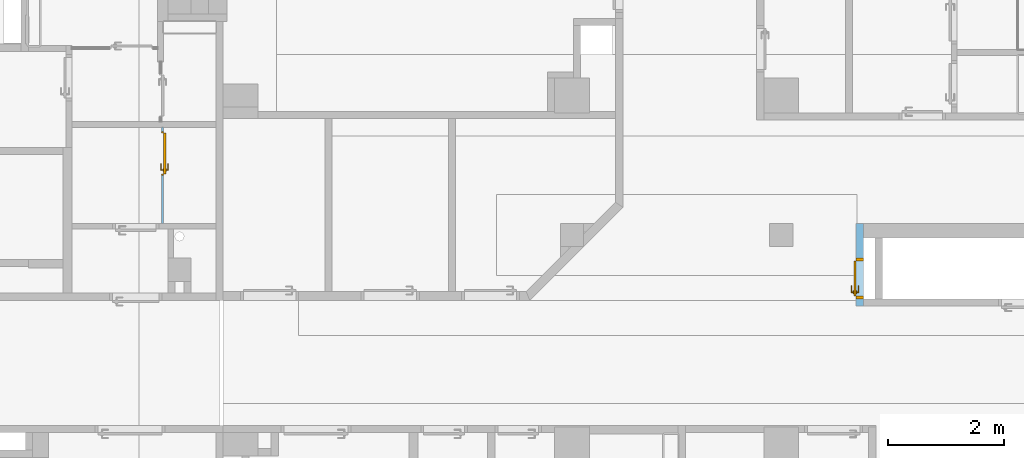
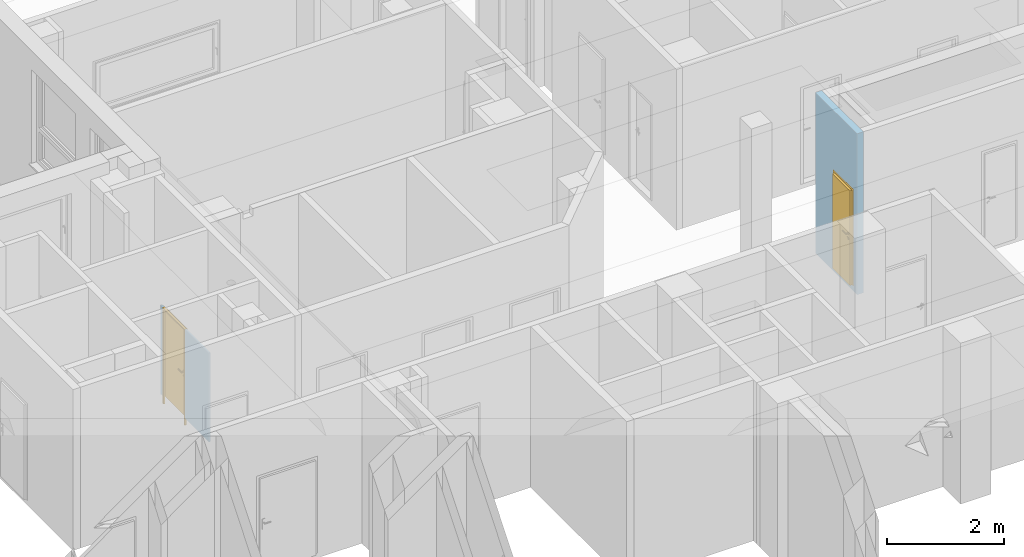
# One storey, part 81 of 140: 2 doors, 2 openings, plus 2 elements that do not belong to this part.
"""IFC4 building model written with IfcOpenShell, lengths in metres."""

from ifc_helpers import new_model, entity, si_unit, converted_unit, derived_unit, frame, frame_2d, origin, origin_with_axes, place, context, subcontext, project, spatial, polyline, rectangle, outline, extrude, closed_shell, open_shell, surface_model, source, transform, mapped, material, layer, layer_set, layer_usage, type_object, element, fill, save


model = new_model("IFC4")

# Units and contexts
model_context = context("Model", 3, precision=1e-05, world=origin())
body_context = subcontext(model_context, "Body", "Model", "MODEL_VIEW")
ifc_project = project(units=[si_unit("LENGTHUNIT", "METRE"), si_unit("AREAUNIT", "SQUARE_METRE"), si_unit("VOLUMEUNIT", "CUBIC_METRE"), si_unit("MASSUNIT", "GRAM", prefix="KILO"), converted_unit("PLANEANGLEUNIT", "DEGREE", entity("IfcPlaneAngleMeasure", 0.0174532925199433), si_unit("PLANEANGLEUNIT", "RADIAN"), dimensions=[0, 0, 0, 0, 0, 0, 0]), derived_unit("THERMALTRANSMITTANCEUNIT", [(si_unit("POWERUNIT", "WATT"), 1), (si_unit("THERMODYNAMICTEMPERATUREUNIT", "KELVIN"), -1), (si_unit("LENGTHUNIT", "METRE"), -2)]), derived_unit("VOLUMETRICFLOWRATEUNIT", [(si_unit("LENGTHUNIT", "METRE"), 3), (converted_unit("TIMEUNIT", "hour", entity("IfcTimeMeasure", 3600.0), si_unit("TIMEUNIT", "SECOND"), dimensions=[0, 0, 1, 0, 0, 0, 0]), -1), (si_unit("LENGTHUNIT", "METRE"), -1)])], contexts=[model_context])

# Site, building, storey
site_placement = place(None, origin())
site = spatial("IfcSite", under=ifc_project, at=site_placement, Name="3. ASŘ", CompositionType="ELEMENT")
building_placement = place(site_placement, origin())
building = spatial("IfcBuilding", under=site, at=building_placement, Name="Pavilon C", CompositionType="ELEMENT")
storey_placement = place(building_placement, origin())
storey = spatial("IfcBuildingStorey", under=building, at=storey_placement, Name="Půdorys 1.NP", CompositionType="ELEMENT", Elevation=0.0)

# Wall, opening, door
ifc_material_1 = material(Name="SANITÁRNÍ WC PŘÍČKA")
ifc_layer_1 = layer(ifc_material_1, 0.032)
ifc_layer_set_1 = layer_set([ifc_layer_1])
ifc_layer_usage_1 = layer_usage(ifc_layer_set_1, "AXIS2", "POSITIVE", 0.0)
wall_1_placement = place(storey_placement, frame((23.725, 11.0, 0.15), z_axis=(0.0, 0.0, 1.0), x_axis=(0.0, 1.0, 0.0)))
wall_1 = element("IfcWall", 1, at=wall_1_placement, inside=storey, material=ifc_layer_usage_1, Name="SANITARNI WC PRICKA", context=body_context, shape_type="SweptSolid", body=[
    extrude(rectangle(XDim=1.65, YDim=0.032, at=frame_2d((0.825, 0.016), x_axis=(1.0, 0.0))), origin_with_axes(), (0.0, 0.0, 1.0), 1.85),
])
opening_1_placement = place(wall_1_placement, frame((0.819999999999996, 0.0, -0.15), z_axis=(0.0, 1.0, 0.0), x_axis=(0.0, 0.0, 1.0)))
opening_1 = element("IfcOpeningElement", 2, at=opening_1_placement, cuts=wall_1, Name="Dveřní otvor", ObjectType="Opening", context=body_context, shape_type="SweptSolid", body=[
    extrude(outline(polyline([(0.0, 0.76), (2.0, 0.76), (2.0, 0.0), (0.0, 0.0), (0.0, 0.76)])), origin_with_axes(), (0.0, 0.0, 1.0), 0.032),
])
door_type_1 = type_object("IfcDoorType", Name="D101", OperationType="NOTDEFINED", ParameterTakesPrecedence=False, PredefinedType="DOOR")
shared_shape_1 = source(origin_with_axes(), body_context, "Body", "SurfaceModel", [
    surface_model("IfcShellBasedSurfaceModel", [(0.0, 0.0500000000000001, 2.0), (0.0, 0.0499999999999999, -1.95943487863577e-18), (0.03, 0.0499999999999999, -1.95943487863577e-18), (0.03, 0.0500000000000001, 2.0), (0.0, 0.0179999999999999, 1.95943487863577e-18), (0.0, 0.0180000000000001, 2.0), (0.03, 0.0180000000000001, 2.0), (0.03, 0.0179999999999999, 1.95943487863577e-18)], [closed_shell([[[0, 1, 2, 3]], [[4, 5, 6, 7]], [[1, 0, 5, 4]], [[2, 1, 4, 7]], [[3, 2, 7, 6]], [[0, 3, 6, 5]]], orient=[[False], [False], [False], [False], [False], [False]])]),
    surface_model("IfcShellBasedSurfaceModel", [(0.73, 0.0500000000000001, 2.0), (0.73, 0.0499999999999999, -1.95943487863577e-18), (0.76, 0.0499999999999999, -1.95943487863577e-18), (0.76, 0.0500000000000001, 2.0), (0.73, 0.0179999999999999, 1.95943487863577e-18), (0.73, 0.0180000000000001, 2.0), (0.76, 0.0180000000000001, 2.0), (0.76, 0.0179999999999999, 1.95943487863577e-18)], [closed_shell([[[0, 1, 2, 3]], [[4, 5, 6, 7]], [[1, 0, 5, 4]], [[2, 1, 4, 7]], [[3, 2, 7, 6]], [[0, 3, 6, 5]]], orient=[[False], [False], [False], [False], [False], [False]])]),
    surface_model("IfcShellBasedSurfaceModel", [(0.03, 0.0500000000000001, 2.0), (0.03, 0.0500000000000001, 1.97), (0.73, 0.0500000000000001, 1.97), (0.73, 0.0500000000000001, 2.0), (0.03, 0.0180000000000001, 1.97), (0.03, 0.0180000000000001, 2.0), (0.73, 0.0180000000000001, 2.0), (0.73, 0.0180000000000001, 1.97)], [closed_shell([[[0, 1, 2, 3]], [[4, 5, 6, 7]], [[1, 0, 5, 4]], [[2, 1, 4, 7]], [[3, 2, 7, 6]], [[0, 3, 6, 5]]], orient=[[False], [False], [False], [False], [False], [False]])]),
    surface_model("IfcShellBasedSurfaceModel", [(0.03, 0.0900000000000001, 1.97), (0.03, 0.0899999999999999, 0.15), (0.73, 0.0899999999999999, 0.15), (0.73, 0.0900000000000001, 1.97), (0.03, 0.0499999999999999, 0.15), (0.03, 0.0500000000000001, 1.97), (0.73, 0.0500000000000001, 1.97), (0.73, 0.0499999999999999, 0.15)], [closed_shell([[[0, 1, 2, 3]], [[4, 5, 6, 7]], [[1, 0, 5, 4]], [[2, 1, 4, 7]], [[3, 2, 7, 6]], [[0, 3, 6, 5]]], orient=[[False], [False], [False], [False], [False], [False]])]),
    surface_model("IfcShellBasedSurfaceModel", [(0.688815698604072, 0.05, 0.93625), (0.6925, 0.05, 0.95), (0.688815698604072, 0.05, 0.96375), (0.67875, 0.05, 0.973815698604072), (0.665, 0.05, 0.9775), (0.65125, 0.05, 0.973815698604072), (0.641184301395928, 0.05, 0.96375), (0.6375, 0.05, 0.95), (0.641184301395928, 0.05, 0.93625), (0.65125, 0.05, 0.926184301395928), (0.665, 0.05, 0.9225), (0.67875, 0.05, 0.926184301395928), (0.6925, 0.0375, 0.95), (0.688815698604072, 0.0375, 0.93625), (0.67875, 0.0375, 0.926184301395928), (0.665, 0.0375, 0.9225), (0.65125, 0.0375, 0.926184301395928), (0.641184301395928, 0.0375, 0.93625), (0.6375, 0.0375, 0.95), (0.641184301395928, 0.0375, 0.96375), (0.65125, 0.0375, 0.973815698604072), (0.665, 0.0375, 0.9775), (0.67875, 0.0375, 0.973815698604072), (0.688815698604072, 0.0375, 0.96375)], [closed_shell([[[0, 1, 2, 3, 4, 5, 6, 7, 8, 9, 10, 11]], [[12, 13, 14, 15, 16, 17, 18, 19, 20, 21, 22, 23]], [[1, 0, 13, 12]], [[2, 1, 12, 23]], [[3, 2, 23, 22]], [[4, 3, 22, 21]], [[5, 4, 21, 20]], [[6, 5, 20, 19]], [[7, 6, 19, 18]], [[8, 7, 18, 17]], [[9, 8, 17, 16]], [[10, 9, 16, 15]], [[11, 10, 15, 14]], [[0, 11, 14, 13]]], orient=[[False], [False], [False], [False], [False], [False], [False], [False], [False], [False], [False], [False], [False], [False]])]),
    surface_model("IfcShellBasedSurfaceModel", [(0.688815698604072, 0.05, 1.03625), (0.6925, 0.05, 1.05), (0.688815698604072, 0.05, 1.06375), (0.67875, 0.05, 1.07381569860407), (0.665, 0.05, 1.0775), (0.65125, 0.05, 1.07381569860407), (0.641184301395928, 0.05, 1.06375), (0.6375, 0.05, 1.05), (0.641184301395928, 0.05, 1.03625), (0.65125, 0.05, 1.02618430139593), (0.665, 0.05, 1.0225), (0.67875, 0.05, 1.02618430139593), (0.6925, 0.0375, 1.05), (0.688815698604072, 0.0375, 1.03625), (0.67875, 0.0375, 1.02618430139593), (0.665, 0.0375, 1.0225), (0.65125, 0.0375, 1.02618430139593), (0.641184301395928, 0.0375, 1.03625), (0.6375, 0.0375, 1.05), (0.641184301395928, 0.0375, 1.06375), (0.65125, 0.0375, 1.07381569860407), (0.665, 0.0375, 1.0775), (0.67875, 0.0375, 1.07381569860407), (0.688815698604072, 0.0375, 1.06375)], [closed_shell([[[0, 1, 2, 3, 4, 5, 6, 7, 8, 9, 10, 11]], [[12, 13, 14, 15, 16, 17, 18, 19, 20, 21, 22, 23]], [[1, 0, 13, 12]], [[2, 1, 12, 23]], [[3, 2, 23, 22]], [[4, 3, 22, 21]], [[5, 4, 21, 20]], [[6, 5, 20, 19]], [[7, 6, 19, 18]], [[8, 7, 18, 17]], [[9, 8, 17, 16]], [[10, 9, 16, 15]], [[11, 10, 15, 14]], [[0, 11, 14, 13]]], orient=[[False], [False], [False], [False], [False], [False], [False], [False], [False], [False], [False], [False], [False], [False]])]),
    surface_model("IfcShellBasedSurfaceModel", [(0.665, 0.05, 1.06), (0.66, 0.05, 1.05866025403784), (0.656339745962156, 0.05, 1.055), (0.655, 0.05, 1.05), (0.656339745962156, 0.05, 1.045), (0.66, 0.05, 1.04133974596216), (0.665, 0.05, 1.04), (0.67, 0.05, 1.04133974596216), (0.673660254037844, 0.05, 1.045), (0.675, 0.05, 1.05), (0.673660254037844, 0.05, 1.055), (0.67, 0.05, 1.05866025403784), (0.67, 0.00500000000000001, 1.05866025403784), (0.665, 0.01, 1.06), (0.673660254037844, 0.00133974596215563, 1.055), (0.675, 1.4210854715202e-17, 1.05), (0.673660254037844, 0.00133974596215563, 1.045), (0.67, 0.00500000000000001, 1.04133974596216), (0.665, 0.01, 1.04), (0.66, 0.015, 1.04133974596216), (0.656339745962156, 0.0186602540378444, 1.045), (0.655, 0.02, 1.05), (0.656339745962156, 0.0186602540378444, 1.055), (0.66, 0.015, 1.05866025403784), (0.55, 0.005, 1.05866025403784), (0.55, 0.01, 1.06), (0.55, 0.00133974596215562, 1.055), (0.55, 0.0, 1.05), (0.55, 0.00133974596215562, 1.045), (0.55, 0.005, 1.04133974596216), (0.55, 0.01, 1.04), (0.55, 0.015, 1.04133974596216), (0.55, 0.0186602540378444, 1.045), (0.55, 0.02, 1.05), (0.55, 0.0186602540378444, 1.055), (0.55, 0.015, 1.05866025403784)], [open_shell([[[0, 1, 2, 3, 4, 5, 6, 7, 8, 9, 10, 11]], [[0, 11, 12, 13]], [[11, 10, 14, 12]], [[10, 9, 15, 14]], [[9, 8, 16, 15]], [[8, 7, 17, 16]], [[7, 6, 18, 17]], [[6, 5, 19, 18]], [[5, 4, 20, 19]], [[4, 3, 21, 20]], [[3, 2, 22, 21]], [[2, 1, 23, 22]], [[1, 0, 13, 23]], [[13, 12, 24, 25]], [[12, 14, 26, 24]], [[14, 15, 27, 26]], [[15, 16, 28, 27]], [[16, 17, 29, 28]], [[17, 18, 30, 29]], [[18, 19, 31, 30]], [[19, 20, 32, 31]], [[20, 21, 33, 32]], [[21, 22, 34, 33]], [[22, 23, 35, 34]], [[23, 13, 25, 35]]], orient=[[False], [False], [False], [False], [False], [False], [False], [False], [False], [False], [False], [False], [False], [False], [False], [False], [False], [False], [False], [False], [False], [False], [False], [False], [False]])]),
    surface_model("IfcShellBasedSurfaceModel", [(0.688815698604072, 0.09, 0.93625), (0.67875, 0.09, 0.926184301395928), (0.665, 0.09, 0.9225), (0.65125, 0.09, 0.926184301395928), (0.641184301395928, 0.09, 0.93625), (0.6375, 0.09, 0.95), (0.641184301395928, 0.09, 0.96375), (0.65125, 0.09, 0.973815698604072), (0.665, 0.09, 0.9775), (0.67875, 0.09, 0.973815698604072), (0.688815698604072, 0.09, 0.96375), (0.6925, 0.09, 0.95), (0.6925, 0.1025, 0.95), (0.688815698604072, 0.1025, 0.96375), (0.67875, 0.1025, 0.973815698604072), (0.665, 0.1025, 0.9775), (0.65125, 0.1025, 0.973815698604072), (0.641184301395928, 0.1025, 0.96375), (0.6375, 0.1025, 0.95), (0.641184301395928, 0.1025, 0.93625), (0.65125, 0.1025, 0.926184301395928), (0.665, 0.1025, 0.9225), (0.67875, 0.1025, 0.926184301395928), (0.688815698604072, 0.1025, 0.93625)], [closed_shell([[[0, 1, 2, 3, 4, 5, 6, 7, 8, 9, 10, 11]], [[12, 13, 14, 15, 16, 17, 18, 19, 20, 21, 22, 23]], [[11, 12, 23, 0]], [[10, 13, 12, 11]], [[9, 14, 13, 10]], [[8, 15, 14, 9]], [[7, 16, 15, 8]], [[6, 17, 16, 7]], [[5, 18, 17, 6]], [[4, 19, 18, 5]], [[3, 20, 19, 4]], [[2, 21, 20, 3]], [[1, 22, 21, 2]], [[0, 23, 22, 1]]], orient=[[False], [False], [False], [False], [False], [False], [False], [False], [False], [False], [False], [False], [False], [False]])]),
    surface_model("IfcShellBasedSurfaceModel", [(0.688815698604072, 0.09, 1.03625), (0.67875, 0.09, 1.02618430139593), (0.665, 0.09, 1.0225), (0.65125, 0.09, 1.02618430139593), (0.641184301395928, 0.09, 1.03625), (0.6375, 0.09, 1.05), (0.641184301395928, 0.09, 1.06375), (0.65125, 0.09, 1.07381569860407), (0.665, 0.09, 1.0775), (0.67875, 0.09, 1.07381569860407), (0.688815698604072, 0.09, 1.06375), (0.6925, 0.09, 1.05), (0.6925, 0.1025, 1.05), (0.688815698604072, 0.1025, 1.06375), (0.67875, 0.1025, 1.07381569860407), (0.665, 0.1025, 1.0775), (0.65125, 0.1025, 1.07381569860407), (0.641184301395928, 0.1025, 1.06375), (0.6375, 0.1025, 1.05), (0.641184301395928, 0.1025, 1.03625), (0.65125, 0.1025, 1.02618430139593), (0.665, 0.1025, 1.0225), (0.67875, 0.1025, 1.02618430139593), (0.688815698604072, 0.1025, 1.03625)], [closed_shell([[[0, 1, 2, 3, 4, 5, 6, 7, 8, 9, 10, 11]], [[12, 13, 14, 15, 16, 17, 18, 19, 20, 21, 22, 23]], [[11, 12, 23, 0]], [[10, 13, 12, 11]], [[9, 14, 13, 10]], [[8, 15, 14, 9]], [[7, 16, 15, 8]], [[6, 17, 16, 7]], [[5, 18, 17, 6]], [[4, 19, 18, 5]], [[3, 20, 19, 4]], [[2, 21, 20, 3]], [[1, 22, 21, 2]], [[0, 23, 22, 1]]], orient=[[False], [False], [False], [False], [False], [False], [False], [False], [False], [False], [False], [False], [False], [False]])]),
    surface_model("IfcShellBasedSurfaceModel", [(0.665, 0.09, 1.06), (0.67, 0.09, 1.05866025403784), (0.673660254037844, 0.09, 1.055), (0.675, 0.09, 1.05), (0.673660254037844, 0.09, 1.045), (0.67, 0.09, 1.04133974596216), (0.665, 0.09, 1.04), (0.66, 0.09, 1.04133974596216), (0.656339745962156, 0.09, 1.045), (0.655, 0.09, 1.05), (0.656339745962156, 0.09, 1.055), (0.66, 0.09, 1.05866025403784), (0.665, 0.13, 1.06), (0.67, 0.135, 1.05866025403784), (0.673660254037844, 0.138660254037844, 1.055), (0.675, 0.14, 1.05), (0.673660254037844, 0.138660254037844, 1.045), (0.67, 0.135, 1.04133974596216), (0.665, 0.13, 1.04), (0.66, 0.125, 1.04133974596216), (0.656339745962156, 0.121339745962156, 1.045), (0.655, 0.12, 1.05), (0.656339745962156, 0.121339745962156, 1.055), (0.66, 0.125, 1.05866025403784), (0.55, 0.13, 1.06), (0.55, 0.135, 1.05866025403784), (0.55, 0.138660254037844, 1.055), (0.55, 0.14, 1.05), (0.55, 0.138660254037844, 1.045), (0.55, 0.135, 1.04133974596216), (0.55, 0.13, 1.04), (0.55, 0.125, 1.04133974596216), (0.55, 0.121339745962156, 1.045), (0.55, 0.12, 1.05), (0.55, 0.121339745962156, 1.055), (0.55, 0.125, 1.05866025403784)], [open_shell([[[0, 1, 2, 3, 4, 5, 6, 7, 8, 9, 10, 11]], [[0, 12, 13, 1]], [[1, 13, 14, 2]], [[2, 14, 15, 3]], [[3, 15, 16, 4]], [[4, 16, 17, 5]], [[5, 17, 18, 6]], [[6, 18, 19, 7]], [[7, 19, 20, 8]], [[8, 20, 21, 9]], [[9, 21, 22, 10]], [[10, 22, 23, 11]], [[11, 23, 12, 0]], [[12, 24, 25, 13]], [[13, 25, 26, 14]], [[14, 26, 27, 15]], [[15, 27, 28, 16]], [[16, 28, 29, 17]], [[17, 29, 30, 18]], [[18, 30, 31, 19]], [[19, 31, 32, 20]], [[20, 32, 33, 21]], [[21, 33, 34, 22]], [[22, 34, 35, 23]], [[23, 35, 24, 12]]], orient=[[False], [False], [False], [False], [False], [False], [False], [False], [False], [False], [False], [False], [False], [False], [False], [False], [False], [False], [False], [False], [False], [False], [False], [False], [False]])]),
])
door_1_placement = place(opening_1_placement, frame((0.0, 0.759999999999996, 0.0500000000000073), z_axis=(1.0, 0.0, 0.0), x_axis=(0.0, -1.0, 2.44929359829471e-16)))
door_1 = element("IfcDoor", 3, at=door_1_placement, inside=storey, type_object=door_type_1, Name="D101", OverallHeight=2.0, OverallWidth=0.76, context=body_context, shape_type="MappedRepresentation", body=[
    mapped(shared_shape_1, transform((0.0, 0.0, 0.0), x_axis=(1.0, 0.0, 0.0), y_axis=(0.0, 1.0, 0.0), z_axis=(0.0, 0.0, 1.0), scale=1.0)),
])
fill(opening_1, door_1)

ifc_material_2 = material(Name="ZDIVO Z CDm")
ifc_layer_2 = layer(ifc_material_2, 0.125)
ifc_layer_set_2 = layer_set([ifc_layer_2])
ifc_layer_usage_2 = layer_usage(ifc_layer_set_2, "AXIS2", "POSITIVE", 0.0)
wall_2_placement = place(storey_placement, frame((35.7625, 9.57499999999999, -0.1), z_axis=(0.0, 0.0, 1.0), x_axis=(0.0, 1.0, 0.0)))
wall_2 = element("IfcWall", 4, at=wall_2_placement, inside=storey, material=ifc_layer_usage_2, Name="ZDIVO Z CDm", context=body_context, shape_type="SweptSolid", body=[
    extrude(rectangle(XDim=1.425, YDim=0.125, at=frame_2d((0.7125, 0.0625), x_axis=(1.0, 0.0))), origin_with_axes(), (0.0, 0.0, 1.0), 3.35),
])
opening_2_placement = place(wall_2_placement, frame((0.824999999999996, 0.125, 0.1), z_axis=(0.0, -1.0, 0.0), x_axis=(0.0, 0.0, 1.0)))
opening_2 = element("IfcOpeningElement", 5, at=opening_2_placement, cuts=wall_2, Name="Dveřní otvor", ObjectType="Opening", context=body_context, shape_type="SweptSolid", body=[
    extrude(outline(polyline([(0.0, 0.7), (2.02, 0.7), (2.02, 0.0), (0.0, 0.0), (0.0, 0.7)])), origin_with_axes(), (0.0, 0.0, 1.0), 0.125),
])
door_type_2 = type_object("IfcDoorType", Name="D101", OperationType="NOTDEFINED", ParameterTakesPrecedence=False, PredefinedType="DOOR")
shared_shape_2 = source(origin_with_axes(), body_context, "Body", "SurfaceModel", [
    surface_model("IfcShellBasedSurfaceModel", [(0.0, 0.125, 2.02), (0.0, 0.125, -7.65404249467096e-18), (0.05, 0.125, -7.65404249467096e-18), (0.05, 0.125, 2.02), (0.0, 0.0, 7.65404249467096e-18), (0.0, 2.41584530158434e-16, 2.02), (0.05, 2.41584530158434e-16, 2.02), (0.05, 0.0, 7.65404249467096e-18)], [closed_shell([[[0, 1, 2, 3]], [[4, 5, 6, 7]], [[1, 0, 5, 4]], [[2, 1, 4, 7]], [[3, 2, 7, 6]], [[0, 3, 6, 5]]], orient=[[False], [False], [False], [False], [False], [False]])]),
    surface_model("IfcShellBasedSurfaceModel", [(0.65, 0.125, 2.02), (0.65, 0.125, -7.65404249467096e-18), (0.7, 0.125, -7.65404249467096e-18), (0.7, 0.125, 2.02), (0.65, 0.0, 7.65404249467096e-18), (0.65, 2.41584530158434e-16, 2.02), (0.7, 2.41584530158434e-16, 2.02), (0.7, 0.0, 7.65404249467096e-18)], [closed_shell([[[0, 1, 2, 3]], [[4, 5, 6, 7]], [[1, 0, 5, 4]], [[2, 1, 4, 7]], [[3, 2, 7, 6]], [[0, 3, 6, 5]]], orient=[[False], [False], [False], [False], [False], [False]])]),
    surface_model("IfcShellBasedSurfaceModel", [(0.05, 0.125, 2.02), (0.05, 0.125, 1.97), (0.65, 0.125, 1.97), (0.65, 0.125, 2.02), (0.05, 2.41584530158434e-16, 1.97), (0.05, 2.41584530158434e-16, 2.02), (0.65, 2.41584530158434e-16, 2.02), (0.65, 2.41584530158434e-16, 1.97)], [closed_shell([[[0, 1, 2, 3]], [[4, 5, 6, 7]], [[1, 0, 5, 4]], [[2, 1, 4, 7]], [[3, 2, 7, 6]], [[0, 3, 6, 5]]], orient=[[False], [False], [False], [False], [False], [False]])]),
    surface_model("IfcShellBasedSurfaceModel", [(0.05, 0.165, 1.97), (0.05, 0.165, -1.25526296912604e-17), (0.65, 0.165, -1.25526296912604e-17), (0.65, 0.165, 1.97), (0.05, 0.125, -7.65404249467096e-18), (0.05, 0.125, 1.97), (0.65, 0.125, 1.97), (0.65, 0.125, -7.65404249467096e-18)], [closed_shell([[[0, 1, 2, 3]], [[4, 5, 6, 7]], [[1, 0, 5, 4]], [[2, 1, 4, 7]], [[3, 2, 7, 6]], [[0, 3, 6, 5]]], orient=[[False], [False], [False], [False], [False], [False]])]),
    surface_model("IfcShellBasedSurfaceModel", [(0.608815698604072, 0.125, 0.93625), (0.6125, 0.125, 0.95), (0.608815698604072, 0.125, 0.96375), (0.59875, 0.125, 0.973815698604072), (0.585, 0.125, 0.9775), (0.57125, 0.125, 0.973815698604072), (0.561184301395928, 0.125, 0.96375), (0.5575, 0.125, 0.95), (0.561184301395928, 0.125, 0.93625), (0.57125, 0.125, 0.926184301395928), (0.585, 0.125, 0.9225), (0.59875, 0.125, 0.926184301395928), (0.6125, 0.1125, 0.95), (0.608815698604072, 0.1125, 0.93625), (0.59875, 0.1125, 0.926184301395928), (0.585, 0.1125, 0.9225), (0.57125, 0.1125, 0.926184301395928), (0.561184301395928, 0.1125, 0.93625), (0.5575, 0.1125, 0.95), (0.561184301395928, 0.1125, 0.96375), (0.57125, 0.1125, 0.973815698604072), (0.585, 0.1125, 0.9775), (0.59875, 0.1125, 0.973815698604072), (0.608815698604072, 0.1125, 0.96375)], [closed_shell([[[0, 1, 2, 3, 4, 5, 6, 7, 8, 9, 10, 11]], [[12, 13, 14, 15, 16, 17, 18, 19, 20, 21, 22, 23]], [[1, 0, 13, 12]], [[2, 1, 12, 23]], [[3, 2, 23, 22]], [[4, 3, 22, 21]], [[5, 4, 21, 20]], [[6, 5, 20, 19]], [[7, 6, 19, 18]], [[8, 7, 18, 17]], [[9, 8, 17, 16]], [[10, 9, 16, 15]], [[11, 10, 15, 14]], [[0, 11, 14, 13]]], orient=[[False], [False], [False], [False], [False], [False], [False], [False], [False], [False], [False], [False], [False], [False]])]),
    surface_model("IfcShellBasedSurfaceModel", [(0.608815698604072, 0.125, 1.03625), (0.6125, 0.125, 1.05), (0.608815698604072, 0.125, 1.06375), (0.59875, 0.125, 1.07381569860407), (0.585, 0.125, 1.0775), (0.57125, 0.125, 1.07381569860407), (0.561184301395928, 0.125, 1.06375), (0.5575, 0.125, 1.05), (0.561184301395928, 0.125, 1.03625), (0.57125, 0.125, 1.02618430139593), (0.585, 0.125, 1.0225), (0.59875, 0.125, 1.02618430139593), (0.6125, 0.1125, 1.05), (0.608815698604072, 0.1125, 1.03625), (0.59875, 0.1125, 1.02618430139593), (0.585, 0.1125, 1.0225), (0.57125, 0.1125, 1.02618430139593), (0.561184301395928, 0.1125, 1.03625), (0.5575, 0.1125, 1.05), (0.561184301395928, 0.1125, 1.06375), (0.57125, 0.1125, 1.07381569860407), (0.585, 0.1125, 1.0775), (0.59875, 0.1125, 1.07381569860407), (0.608815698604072, 0.1125, 1.06375)], [closed_shell([[[0, 1, 2, 3, 4, 5, 6, 7, 8, 9, 10, 11]], [[12, 13, 14, 15, 16, 17, 18, 19, 20, 21, 22, 23]], [[1, 0, 13, 12]], [[2, 1, 12, 23]], [[3, 2, 23, 22]], [[4, 3, 22, 21]], [[5, 4, 21, 20]], [[6, 5, 20, 19]], [[7, 6, 19, 18]], [[8, 7, 18, 17]], [[9, 8, 17, 16]], [[10, 9, 16, 15]], [[11, 10, 15, 14]], [[0, 11, 14, 13]]], orient=[[False], [False], [False], [False], [False], [False], [False], [False], [False], [False], [False], [False], [False], [False]])]),
    surface_model("IfcShellBasedSurfaceModel", [(0.585, 0.125, 1.06), (0.58, 0.125, 1.05866025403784), (0.576339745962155, 0.125, 1.055), (0.575, 0.125, 1.05), (0.576339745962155, 0.125, 1.045), (0.58, 0.125, 1.04133974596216), (0.585, 0.125, 1.04), (0.59, 0.125, 1.04133974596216), (0.593660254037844, 0.125, 1.045), (0.595, 0.125, 1.05), (0.593660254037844, 0.125, 1.055), (0.59, 0.125, 1.05866025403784), (0.59, 0.0800000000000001, 1.05866025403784), (0.585, 0.0850000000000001, 1.06), (0.593660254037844, 0.0763397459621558, 1.055), (0.595, 0.0750000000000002, 1.05), (0.593660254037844, 0.0763397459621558, 1.045), (0.59, 0.0800000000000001, 1.04133974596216), (0.585, 0.0850000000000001, 1.04), (0.58, 0.0900000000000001, 1.04133974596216), (0.576339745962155, 0.0936602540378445, 1.045), (0.575, 0.0950000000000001, 1.05), (0.576339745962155, 0.0936602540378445, 1.055), (0.58, 0.0900000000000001, 1.05866025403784), (0.47, 0.0800000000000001, 1.05866025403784), (0.47, 0.0850000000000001, 1.06), (0.47, 0.0763397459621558, 1.055), (0.47, 0.0750000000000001, 1.05), (0.47, 0.0763397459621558, 1.045), (0.47, 0.0800000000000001, 1.04133974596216), (0.47, 0.0850000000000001, 1.04), (0.47, 0.0900000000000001, 1.04133974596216), (0.47, 0.0936602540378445, 1.045), (0.47, 0.0950000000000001, 1.05), (0.47, 0.0936602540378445, 1.055), (0.47, 0.0900000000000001, 1.05866025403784)], [open_shell([[[0, 1, 2, 3, 4, 5, 6, 7, 8, 9, 10, 11]], [[0, 11, 12, 13]], [[11, 10, 14, 12]], [[10, 9, 15, 14]], [[9, 8, 16, 15]], [[8, 7, 17, 16]], [[7, 6, 18, 17]], [[6, 5, 19, 18]], [[5, 4, 20, 19]], [[4, 3, 21, 20]], [[3, 2, 22, 21]], [[2, 1, 23, 22]], [[1, 0, 13, 23]], [[13, 12, 24, 25]], [[12, 14, 26, 24]], [[14, 15, 27, 26]], [[15, 16, 28, 27]], [[16, 17, 29, 28]], [[17, 18, 30, 29]], [[18, 19, 31, 30]], [[19, 20, 32, 31]], [[20, 21, 33, 32]], [[21, 22, 34, 33]], [[22, 23, 35, 34]], [[23, 13, 25, 35]]], orient=[[False], [False], [False], [False], [False], [False], [False], [False], [False], [False], [False], [False], [False], [False], [False], [False], [False], [False], [False], [False], [False], [False], [False], [False], [False]])]),
    surface_model("IfcShellBasedSurfaceModel", [(0.608815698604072, 0.165, 0.93625), (0.59875, 0.165, 0.926184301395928), (0.585, 0.165, 0.9225), (0.57125, 0.165, 0.926184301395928), (0.561184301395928, 0.165, 0.93625), (0.5575, 0.165, 0.95), (0.561184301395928, 0.165, 0.96375), (0.57125, 0.165, 0.973815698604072), (0.585, 0.165, 0.9775), (0.59875, 0.165, 0.973815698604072), (0.608815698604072, 0.165, 0.96375), (0.6125, 0.165, 0.95), (0.6125, 0.1775, 0.95), (0.608815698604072, 0.1775, 0.96375), (0.59875, 0.1775, 0.973815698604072), (0.585, 0.1775, 0.9775), (0.57125, 0.1775, 0.973815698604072), (0.561184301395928, 0.1775, 0.96375), (0.5575, 0.1775, 0.95), (0.561184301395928, 0.1775, 0.93625), (0.57125, 0.1775, 0.926184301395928), (0.585, 0.1775, 0.9225), (0.59875, 0.1775, 0.926184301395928), (0.608815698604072, 0.1775, 0.93625)], [closed_shell([[[0, 1, 2, 3, 4, 5, 6, 7, 8, 9, 10, 11]], [[12, 13, 14, 15, 16, 17, 18, 19, 20, 21, 22, 23]], [[11, 12, 23, 0]], [[10, 13, 12, 11]], [[9, 14, 13, 10]], [[8, 15, 14, 9]], [[7, 16, 15, 8]], [[6, 17, 16, 7]], [[5, 18, 17, 6]], [[4, 19, 18, 5]], [[3, 20, 19, 4]], [[2, 21, 20, 3]], [[1, 22, 21, 2]], [[0, 23, 22, 1]]], orient=[[False], [False], [False], [False], [False], [False], [False], [False], [False], [False], [False], [False], [False], [False]])]),
    surface_model("IfcShellBasedSurfaceModel", [(0.608815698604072, 0.165, 1.03625), (0.59875, 0.165, 1.02618430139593), (0.585, 0.165, 1.0225), (0.57125, 0.165, 1.02618430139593), (0.561184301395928, 0.165, 1.03625), (0.5575, 0.165, 1.05), (0.561184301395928, 0.165, 1.06375), (0.57125, 0.165, 1.07381569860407), (0.585, 0.165, 1.0775), (0.59875, 0.165, 1.07381569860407), (0.608815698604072, 0.165, 1.06375), (0.6125, 0.165, 1.05), (0.6125, 0.1775, 1.05), (0.608815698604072, 0.1775, 1.06375), (0.59875, 0.1775, 1.07381569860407), (0.585, 0.1775, 1.0775), (0.57125, 0.1775, 1.07381569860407), (0.561184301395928, 0.1775, 1.06375), (0.5575, 0.1775, 1.05), (0.561184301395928, 0.1775, 1.03625), (0.57125, 0.1775, 1.02618430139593), (0.585, 0.1775, 1.0225), (0.59875, 0.1775, 1.02618430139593), (0.608815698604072, 0.1775, 1.03625)], [closed_shell([[[0, 1, 2, 3, 4, 5, 6, 7, 8, 9, 10, 11]], [[12, 13, 14, 15, 16, 17, 18, 19, 20, 21, 22, 23]], [[11, 12, 23, 0]], [[10, 13, 12, 11]], [[9, 14, 13, 10]], [[8, 15, 14, 9]], [[7, 16, 15, 8]], [[6, 17, 16, 7]], [[5, 18, 17, 6]], [[4, 19, 18, 5]], [[3, 20, 19, 4]], [[2, 21, 20, 3]], [[1, 22, 21, 2]], [[0, 23, 22, 1]]], orient=[[False], [False], [False], [False], [False], [False], [False], [False], [False], [False], [False], [False], [False], [False]])]),
    surface_model("IfcShellBasedSurfaceModel", [(0.585, 0.165, 1.06), (0.59, 0.165, 1.05866025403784), (0.593660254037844, 0.165, 1.055), (0.595, 0.165, 1.05), (0.593660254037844, 0.165, 1.045), (0.59, 0.165, 1.04133974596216), (0.585, 0.165, 1.04), (0.58, 0.165, 1.04133974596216), (0.576339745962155, 0.165, 1.045), (0.575, 0.165, 1.05), (0.576339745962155, 0.165, 1.055), (0.58, 0.165, 1.05866025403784), (0.585, 0.205, 1.06), (0.59, 0.21, 1.05866025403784), (0.593660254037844, 0.213660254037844, 1.055), (0.595, 0.215, 1.05), (0.593660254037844, 0.213660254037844, 1.045), (0.59, 0.21, 1.04133974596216), (0.585, 0.205, 1.04), (0.58, 0.2, 1.04133974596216), (0.576339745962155, 0.196339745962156, 1.045), (0.575, 0.195, 1.05), (0.576339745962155, 0.196339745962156, 1.055), (0.58, 0.2, 1.05866025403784), (0.47, 0.205, 1.06), (0.47, 0.21, 1.05866025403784), (0.47, 0.213660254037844, 1.055), (0.47, 0.215, 1.05), (0.47, 0.213660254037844, 1.045), (0.47, 0.21, 1.04133974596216), (0.47, 0.205, 1.04), (0.47, 0.2, 1.04133974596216), (0.47, 0.196339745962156, 1.045), (0.47, 0.195, 1.05), (0.47, 0.196339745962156, 1.055), (0.47, 0.2, 1.05866025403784)], [open_shell([[[0, 1, 2, 3, 4, 5, 6, 7, 8, 9, 10, 11]], [[0, 12, 13, 1]], [[1, 13, 14, 2]], [[2, 14, 15, 3]], [[3, 15, 16, 4]], [[4, 16, 17, 5]], [[5, 17, 18, 6]], [[6, 18, 19, 7]], [[7, 19, 20, 8]], [[8, 20, 21, 9]], [[9, 21, 22, 10]], [[10, 22, 23, 11]], [[11, 23, 12, 0]], [[12, 24, 25, 13]], [[13, 25, 26, 14]], [[14, 26, 27, 15]], [[15, 27, 28, 16]], [[16, 28, 29, 17]], [[17, 29, 30, 18]], [[18, 30, 31, 19]], [[19, 31, 32, 20]], [[20, 32, 33, 21]], [[21, 33, 34, 22]], [[22, 34, 35, 23]], [[23, 35, 24, 12]]], orient=[[False], [False], [False], [False], [False], [False], [False], [False], [False], [False], [False], [False], [False], [False], [False], [False], [False], [False], [False], [False], [False], [False], [False], [False], [False]])]),
])
door_2_placement = place(opening_2_placement, frame((0.0, 3.63797880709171e-15, 0.124999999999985), z_axis=(1.0, 0.0, 0.0), x_axis=(0.0, 1.0, -1.22464679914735e-16)))
door_2 = element("IfcDoor", 6, at=door_2_placement, inside=storey, type_object=door_type_2, Name="D101", OverallHeight=2.02, OverallWidth=0.7, context=body_context, shape_type="MappedRepresentation", body=[
    mapped(shared_shape_2, transform((0.0, 0.0, 0.0), x_axis=(1.0, 0.0, 0.0), y_axis=(0.0, -1.0, 0.0), z_axis=(0.0, 0.0, 1.0), scale=1.0)),
])
fill(opening_2, door_2)

save(model, "model.ifc")
